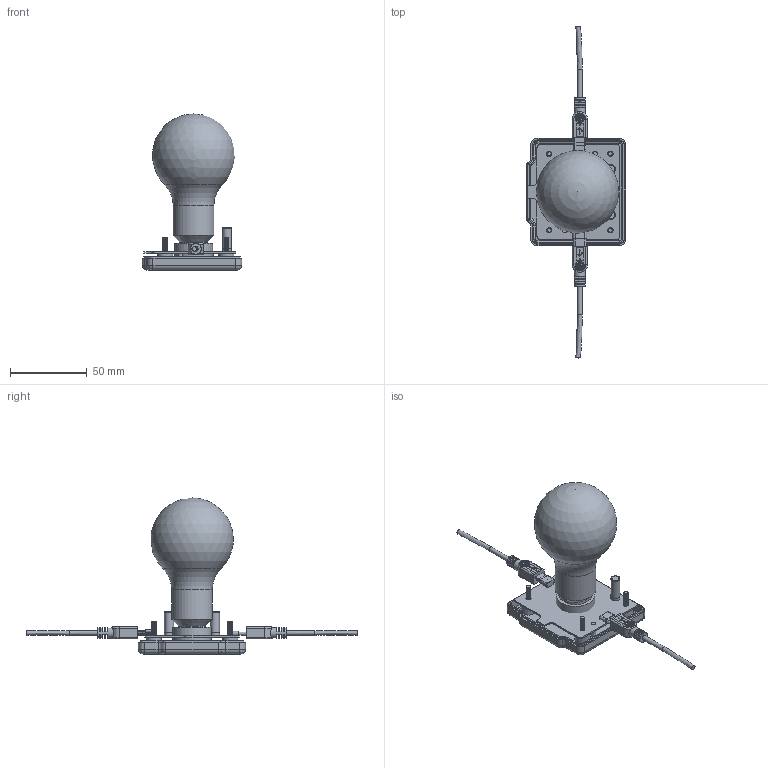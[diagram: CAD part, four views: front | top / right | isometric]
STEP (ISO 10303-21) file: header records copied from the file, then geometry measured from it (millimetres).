
FILE_DESCRIPTION(/* description */ (''),/* implementation_level */ '2;1');
FILE_NAME(/* name */ '7.stp',/* time_stamp */ '2017-05-18T00:59:40+08:00',/* author */ (''),/* organization */ (''),/* preprocessor_version */ 'ST-DEVELOPER v15',/* originating_system */ 'SIEMENS PLM Software NX 8.5',/* authorisation */ '');
FILE_SCHEMA (('AUTOMOTIVE_DESIGN { 1 0 10303 214 3 1 1 1 }'));
Length unit declared in the file: millimetre
Products named in the file (1): Admi1DBCDAC23vrs
Bounding box: 65 x 217 x 102 mm (x, y, z)
Volume: 128655.4 mm3; surface area: 41922.9 mm2
Topology: 14 solids, 14 shells, 615 faces, 1500 edges, 979 vertices
Faces by surface type: plane 336, cylinder 210, bspline 32, torus 18, cone 14, sphere 5
Full cylindrical faces by diameter (mm): 3 x5, 3.5 x7, 4 x4, 6 x4, 6.6 x4, 7 x2, 18 x1, 18.183 x1, 21 x1, 25 x1, 26.609 x1, 28 x1
Entity records: 52089 total; most frequent: CARTESIAN_POINT 37486, DIRECTION 3020, ORIENTED_EDGE 2802, EDGE_CURVE 1401, AXIS2_PLACEMENT_3D 1121, VERTEX_POINT 943, LINE 778, VECTOR 778
